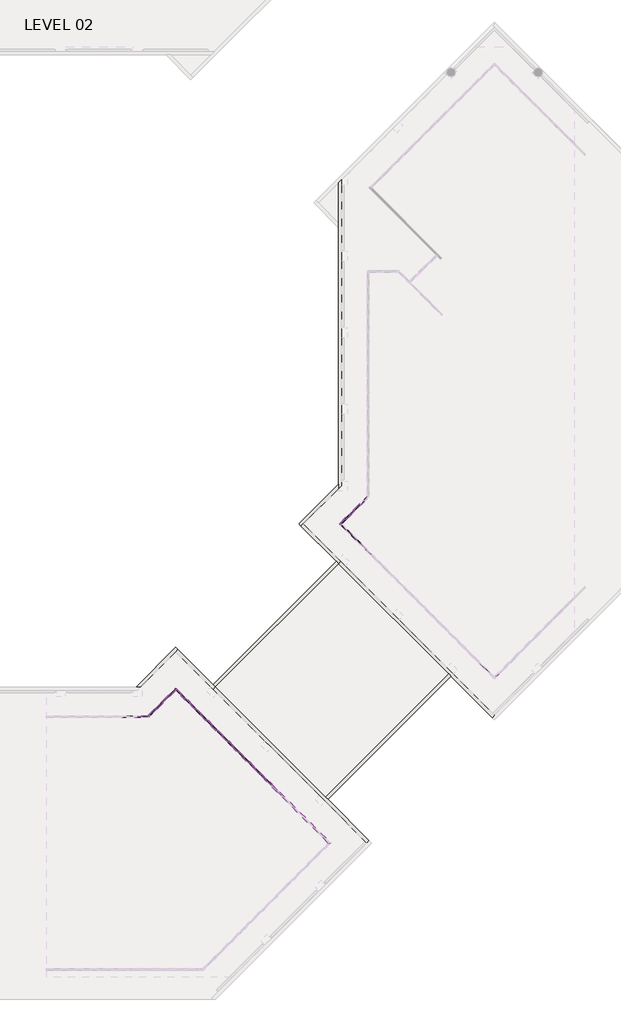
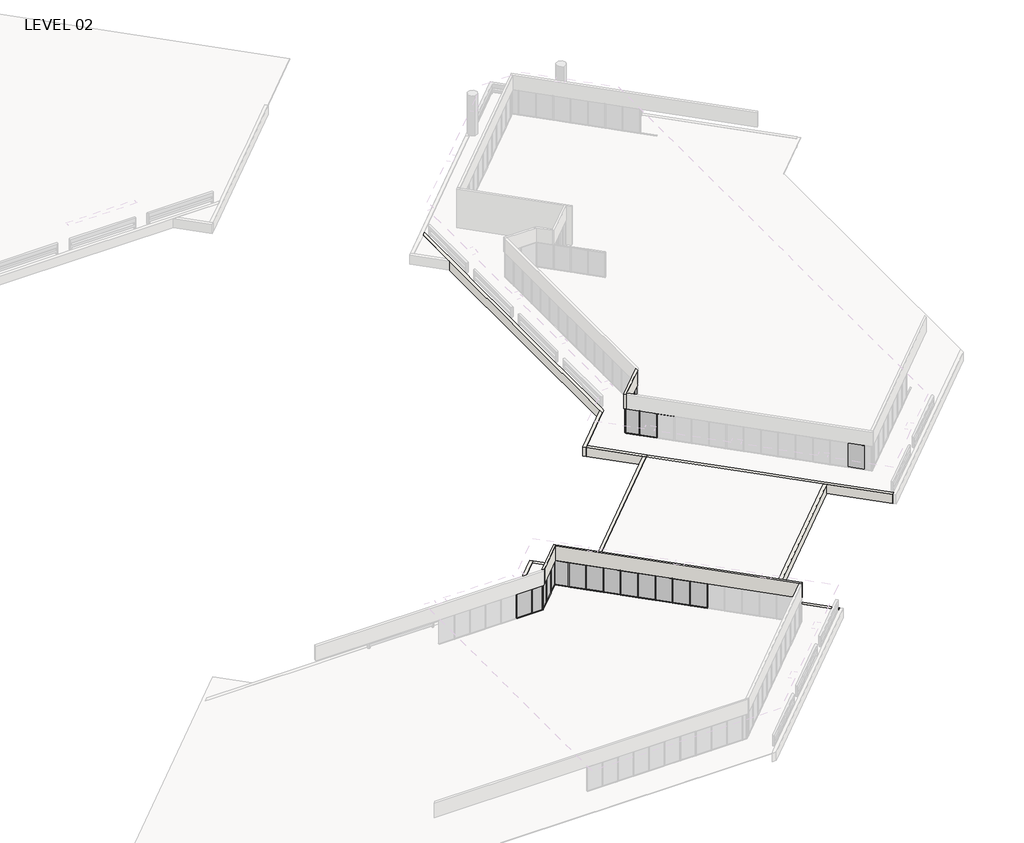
# One storey, part 9 of 19: 65 members, 21 plates, 12 walls.
"""IFC4 building model written with IfcOpenShell, lengths in millimetres."""

from ifc_helpers import new_model, si_unit, frame, origin, place, context, project, spatial, polyline, outline, extrude, faceted_brep, transform, mapped, element, save
from components import member_5247f267, member_ed5eb8ce, member_1b18ecbc, member_57f2eb73, member_e44af9ab, member_800970d4, member_79e7b9d8, member_76371e1d, member_71e516ba, plate_ce959b8d, plate_67294edd, plate_474de82a, plate_87d7c655, plate_43a54168, plate_e0bd23ee, plate_9188e7fd, plate_7efc74f4

model = new_model("IFC4")

# Units and contexts
model_context = context("Model", 3, world=origin())
ifc_project = project(units=[si_unit("LENGTHUNIT", "METRE", prefix="MILLI")], contexts=[model_context])

# Site, building, storey
site = spatial("IfcSite", under=ifc_project)
building = spatial("IfcBuilding", under=site)
storey = spatial("IfcBuildingStorey", under=building, Name="LEVEL 02", Elevation=4140.2)

# Members
placement = place(None, origin())
member_shape = member_5247f267(model_context)
element("IfcMember", 1, ObjectType="Rectangular Mullion : 2\" x 4.5\" rectangular", at=placement, inside=storey, context=model_context, shape_type="MappedRepresentation", body=[
    mapped(member_shape, transform((54569.0750355, 16323.0133392, 4140.2), x_axis=(0.0, 0.0, -1.0), y_axis=(0.707106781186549, 0.7071067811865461, 0.0), z_axis=(0.707106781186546, -0.7071067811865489, 0.0))),
])
element("IfcMember", 2, ObjectType="Rectangular Mullion : 2\" x 4.5\" rectangular", at=placement, inside=storey, context=model_context, shape_type="MappedRepresentation", body=[
    mapped(member_shape, transform((52414.1709117, 18477.917463, 4140.2), x_axis=(0.0, 0.0, -1.0), y_axis=(0.707106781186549, 0.7071067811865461, 0.0), z_axis=(0.707106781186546, -0.7071067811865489, 0.0))),
])
element("IfcMember", 3, ObjectType="Rectangular Mullion : 2\" x 4.5\" rectangular", at=placement, inside=storey, context=model_context, shape_type="MappedRepresentation", body=[
    mapped(member_shape, transform((50258.9094426, 20633.1789321, 4140.2), x_axis=(0.0, 0.0, -1.0), y_axis=(0.707106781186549, 0.7071067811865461, 0.0), z_axis=(0.7071067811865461, -0.707106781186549, 0.0))),
])
element("IfcMember", 4, ObjectType="Rectangular Mullion : 2\" x 4.5\" rectangular", at=placement, inside=storey, context=model_context, shape_type="MappedRepresentation", body=[
    mapped(member_shape, transform((48103.6479736, 22788.4404011, 4140.2), x_axis=(0.0, 0.0, -1.0), y_axis=(0.7071067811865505, 0.7071067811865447, 0.0), z_axis=(0.7071067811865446, -0.7071067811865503, 0.0))),
])
element("IfcMember", 5, ObjectType="Rectangular Mullion : 2\" x 4.5\" rectangular", at=placement, inside=storey, context=model_context, shape_type="MappedRepresentation", body=[
    mapped(member_shape, transform((47026.0172391, 23866.0711357, 4140.2), x_axis=(0.0, 0.0, -1.0), y_axis=(0.7071067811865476, 0.7071067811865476, 0.0), z_axis=(0.7071067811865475, -0.7071067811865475, 0.0))),
])
element("IfcMember", 6, ObjectType="Rectangular Mullion : 2\" x 4.5\" rectangular", at=placement, inside=storey, context=model_context, shape_type="MappedRepresentation", body=[
    mapped(member_shape, transform((51336.5401772, 19555.5481975, 4140.2), x_axis=(0.0, 0.0, -1.0), y_axis=(0.707106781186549, 0.7071067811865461, 0.0), z_axis=(0.707106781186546, -0.7071067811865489, 0.0))),
])
element("IfcMember", 7, ObjectType="Rectangular Mullion : 2\" x 4.5\" rectangular", at=placement, inside=storey, context=model_context, shape_type="MappedRepresentation", body=[
    mapped(member_shape, transform((49181.2787081, 21710.8096666, 4140.2), x_axis=(0.0, 0.0, -1.0), y_axis=(0.7071067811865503, 0.7071067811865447, 0.0), z_axis=(0.7071067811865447, -0.7071067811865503, 0.0))),
])
element("IfcMember", 8, ObjectType="Rectangular Mullion : 2\" x 4.5\" rectangular", at=placement, inside=storey, context=model_context, shape_type="MappedRepresentation", body=[
    mapped(member_shape, transform((44147.5963619, 24907.7847366, 4140.2), x_axis=(0.0, 0.0, -1.0), y_axis=(-0.7071067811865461, 0.7071067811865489, 0.0), z_axis=(0.7071067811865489, 0.7071067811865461, 0.0))),
])
element("IfcMember", 9, ObjectType="Rectangular Mullion : 2\" x 4.5\" rectangular", at=placement, inside=storey, context=model_context, shape_type="MappedRepresentation", body=[
    mapped(member_shape, transform((41230.55, 23089.2828721, 4140.2), x_axis=(0.0, 0.0, -1.0), y_axis=(0.0, 1.0, 0.0), z_axis=(1.0, 0.0, 0.0))),
])
element("IfcMember", 10, ObjectType="Rectangular Mullion : 2\" x 4.5\" rectangular", at=placement, inside=storey, context=model_context, shape_type="MappedRepresentation", body=[
    mapped(member_shape, transform((54604.99606, 16287.0923148, 6731.0), x_axis=(0.0, 0.0, 1.0), y_axis=(0.7071067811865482, 0.7071067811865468, 0.0), z_axis=(-0.7071067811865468, 0.7071067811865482, 0.0))),
])
element("IfcMember", 11, ObjectType="Rectangular Mullion : 2\" x 4.5\" rectangular", at=placement, inside=storey, context=model_context, shape_type="MappedRepresentation", body=[
    mapped(member_shape, transform((50294.8304671, 20597.2579076, 6731.0), x_axis=(0.0, 0.0, 1.0), y_axis=(0.707106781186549, 0.7071067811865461, 0.0), z_axis=(-0.707106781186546, 0.7071067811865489, 0.0))),
])
element("IfcMember", 12, ObjectType="Rectangular Mullion : 2\" x 4.5\" rectangular", at=placement, inside=storey, context=model_context, shape_type="MappedRepresentation", body=[
    mapped(member_shape, transform((48139.5689981, 22752.5193766, 6731.0), x_axis=(0.0, 0.0, 1.0), y_axis=(0.707106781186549, 0.7071067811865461, 0.0), z_axis=(-0.707106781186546, 0.7071067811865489, 0.0))),
])
element("IfcMember", 13, ObjectType="Rectangular Mullion : 2\" x 4.5\" rectangular", at=placement, inside=storey, context=model_context, shape_type="MappedRepresentation", body=[
    mapped(member_shape, transform((43105.8866519, 23866.0750266, 6731.0), x_axis=(0.0, 0.0, 1.0), y_axis=(-0.7071067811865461, 0.7071067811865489, 0.0), z_axis=(-0.7071067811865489, -0.7071067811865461, 0.0))),
])
element("IfcMember", 14, ObjectType="Rectangular Mullion : 2\" x 4.5\" rectangular", at=placement, inside=storey, context=model_context, shape_type="MappedRepresentation", body=[
    mapped(member_shape, transform((47061.9382635, 23830.1501112, 6731.0), x_axis=(0.0, 0.0, 1.0), y_axis=(0.7071067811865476, 0.7071067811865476, 0.0), z_axis=(-0.7071067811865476, 0.7071067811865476, 0.0))),
])
element("IfcMember", 15, ObjectType="Rectangular Mullion : 2\" x 4.5\" rectangular", at=placement, inside=storey, context=model_context, shape_type="MappedRepresentation", body=[
    mapped(member_shape, transform((45984.307529, 24907.7808457, 6731.0), x_axis=(0.0, 0.0, 1.0), y_axis=(0.7071067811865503, 0.7071067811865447, 0.0), z_axis=(-0.7071067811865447, 0.7071067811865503, 0.0))),
])
element("IfcMember", 16, ObjectType="Rectangular Mullion : 2\" x 4.5\" rectangular", at=placement, inside=storey, context=model_context, shape_type="MappedRepresentation", body=[
    mapped(member_shape, transform((53527.3653254, 17364.7230493, 6731.0), x_axis=(0.0, 0.0, 1.0), y_axis=(0.707106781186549, 0.7071067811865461, 0.0), z_axis=(-0.707106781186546, 0.7071067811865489, 0.0))),
])
element("IfcMember", 17, ObjectType="Rectangular Mullion : 2\" x 4.5\" rectangular", at=placement, inside=storey, context=model_context, shape_type="MappedRepresentation", body=[
    mapped(member_shape, transform((51372.4612017, 19519.6271731, 6731.0), x_axis=(0.0, 0.0, 1.0), y_axis=(0.707106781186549, 0.7071067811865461, 0.0), z_axis=(-0.707106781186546, 0.7071067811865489, 0.0))),
])
element("IfcMember", 18, ObjectType="Rectangular Mullion : 2\" x 4.5\" rectangular", at=placement, inside=storey, context=model_context, shape_type="MappedRepresentation", body=[
    mapped(member_shape, transform((49217.1997326, 21674.8886421, 6731.0), x_axis=(0.0, 0.0, 1.0), y_axis=(0.7071067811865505, 0.7071067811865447, 0.0), z_axis=(-0.7071067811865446, 0.7071067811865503, 0.0))),
])
member_2_shape = member_ed5eb8ce(model_context)
element("IfcMember", 19, ObjectType="Rectangular Mullion : 2\" x 4.5\" rectangular", at=placement, inside=storey, context=model_context, shape_type="MappedRepresentation", body=[
    mapped(member_2_shape, transform((42365.0155219, 23125.2038966, 6731.0), x_axis=(0.0, 0.0, 1.0), y_axis=(-0.7071067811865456, 0.7071067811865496, 0.0), z_axis=(-0.7071067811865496, -0.7071067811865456, 0.0))),
])
element("IfcMember", 20, ObjectType="Rectangular Mullion : 2\" x 4.5\" rectangular", at=placement, inside=storey, context=model_context, shape_type="MappedRepresentation", body=[
    mapped(member_2_shape, transform((41281.35, 23089.2828721, 6731.0), x_axis=(0.0, 0.0, 1.0), y_axis=(0.0, 1.0, 0.0), z_axis=(-1.0, 0.0, 0.0))),
])
element("IfcMember", 21, ObjectType="Rectangular Mullion : 2\" x 4.5\" rectangular", at=placement, inside=storey, context=model_context, shape_type="MappedRepresentation", body=[
    mapped(member_2_shape, transform((43069.9656274, 23830.1540021, 4140.2), x_axis=(0.0, 0.0, -1.0), y_axis=(-0.7071067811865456, 0.7071067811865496, 0.0), z_axis=(0.7071067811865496, 0.7071067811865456, 0.0))),
])
element("IfcMember", 22, ObjectType="Rectangular Mullion : 2\" x 4.5\" rectangular", at=placement, inside=storey, context=model_context, shape_type="MappedRepresentation", body=[
    mapped(member_2_shape, transform((42278.2944974, 23089.2828721, 4140.2), x_axis=(0.0, 0.0, -1.0), y_axis=(0.0, 1.0, 0.0), z_axis=(1.0, 0.0, 0.0))),
])
member_3_shape = member_1b18ecbc(model_context)
element("IfcMember", 23, ObjectType="Rectangular Mullion : 2\" x 4.5\" rectangular", at=placement, inside=storey, context=model_context, shape_type="MappedRepresentation", body=[
    mapped(member_3_shape, transform((45101.8710245, 25790.2173502, 6731.0), x_axis=(0.0, 0.0, 1.0), y_axis=(0.7071067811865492, 0.7071067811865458, 0.0), z_axis=(-0.7071067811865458, 0.7071067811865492, 0.0))),
])
element("IfcMember", 24, ObjectType="Rectangular Mullion : 2\" x 4.5\" rectangular", at=placement, inside=storey, context=model_context, shape_type="MappedRepresentation", body=[
    mapped(member_3_shape, transform((44183.5173864, 24943.7057611, 6731.0), x_axis=(0.0, 0.0, 1.0), y_axis=(-0.7071067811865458, 0.7071067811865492, 0.0), z_axis=(-0.7071067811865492, -0.7071067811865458, 0.0))),
])
element("IfcMember", 25, ObjectType="Rectangular Mullion : 2\" x 4.5\" rectangular", at=placement, inside=storey, context=model_context, shape_type="MappedRepresentation", body=[
    mapped(member_3_shape, transform((45030.0289755, 25790.2173502, 4140.2), x_axis=(0.0, 0.0, -1.0), y_axis=(-0.7071067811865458, 0.7071067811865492, 0.0), z_axis=(0.7071067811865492, 0.7071067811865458, 0.0))),
])
element("IfcMember", 26, ObjectType="Rectangular Mullion : 2\" x 4.5\" rectangular", at=placement, inside=storey, context=model_context, shape_type="MappedRepresentation", body=[
    mapped(member_3_shape, transform((45948.3865045, 24943.7018702, 4140.2), x_axis=(0.0, 0.0, -1.0), y_axis=(0.7071067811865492, 0.7071067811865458, 0.0), z_axis=(0.7071067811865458, -0.7071067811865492, 0.0))),
])
member_4_shape = member_57f2eb73(model_context)
element("IfcMember", 27, ObjectType="Rectangular Mullion : 2\" x 4.5\" rectangular", at=placement, inside=storey, context=model_context, shape_type="MappedRepresentation", body=[
    mapped(member_4_shape, transform((52450.0919362, 18441.9964385, 6731.0), x_axis=(0.0, 0.0, 1.0), y_axis=(0.7071067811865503, 0.7071067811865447, 0.0), z_axis=(-0.7071067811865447, 0.7071067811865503, 0.0))),
])
element("IfcMember", 28, ObjectType="Rectangular Mullion : 2\" x 4.5\" rectangular", at=placement, inside=storey, context=model_context, shape_type="MappedRepresentation", body=[
    mapped(member_4_shape, transform((53491.4443009, 17400.6440738, 4140.2), x_axis=(0.0, 0.0, -1.0), y_axis=(0.7071067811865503, 0.7071067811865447, 0.0), z_axis=(0.7071067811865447, -0.7071067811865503, 0.0))),
])
member_5_shape = member_e44af9ab(model_context)
element("IfcMember", 29, ObjectType="Rectangular Mullion : 2\" x 4.5\" rectangular", at=placement, inside=storey, context=model_context, shape_type="MappedRepresentation", body=[
    mapped(member_5_shape, transform((54587.0355477, 16305.052827, 4140.2), x_axis=(-0.7071067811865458, 0.7071067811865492, 0.0), y_axis=(0.7071067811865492, 0.7071067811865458, 0.0), z_axis=(0.0, 0.0, -1.0))),
])
element("IfcMember", 30, ObjectType="Rectangular Mullion : 2\" x 4.5\" rectangular", at=placement, inside=storey, context=model_context, shape_type="MappedRepresentation", body=[
    mapped(member_5_shape, transform((52432.1314239, 18459.9569508, 4140.2), x_axis=(-0.7071067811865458, 0.7071067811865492, 0.0), y_axis=(0.7071067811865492, 0.7071067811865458, 0.0), z_axis=(0.0, 0.0, -1.0))),
])
element("IfcMember", 31, ObjectType="Rectangular Mullion : 2\" x 4.5\" rectangular", at=placement, inside=storey, context=model_context, shape_type="MappedRepresentation", body=[
    mapped(member_5_shape, transform((50276.8699549, 20615.2184198, 4140.2), x_axis=(-0.7071067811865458, 0.7071067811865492, 0.0), y_axis=(0.7071067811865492, 0.7071067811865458, 0.0), z_axis=(0.0, 0.0, -1.0))),
])
element("IfcMember", 32, ObjectType="Rectangular Mullion : 2\" x 4.5\" rectangular", at=placement, inside=storey, context=model_context, shape_type="MappedRepresentation", body=[
    mapped(member_5_shape, transform((48121.6084858, 22770.4798889, 4140.2), x_axis=(-0.7071067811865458, 0.7071067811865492, 0.0), y_axis=(0.7071067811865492, 0.7071067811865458, 0.0), z_axis=(0.0, 0.0, -1.0))),
])
element("IfcMember", 33, ObjectType="Rectangular Mullion : 2\" x 4.5\" rectangular", at=placement, inside=storey, context=model_context, shape_type="MappedRepresentation", body=[
    mapped(member_5_shape, transform((43087.9261396, 23848.1145143, 4140.2), x_axis=(-0.7071067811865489, -0.7071067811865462, 0.0), y_axis=(-0.7071067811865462, 0.7071067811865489, 0.0), z_axis=(0.0, 0.0, -1.0))),
])
element("IfcMember", 34, ObjectType="Rectangular Mullion : 2\" x 4.5\" rectangular", at=placement, inside=storey, context=model_context, shape_type="MappedRepresentation", body=[
    mapped(member_5_shape, transform((47043.9777513, 23848.1106234, 4140.2), x_axis=(-0.7071067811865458, 0.7071067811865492, 0.0), y_axis=(0.7071067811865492, 0.7071067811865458, 0.0), z_axis=(0.0, 0.0, -1.0))),
])
element("IfcMember", 35, ObjectType="Rectangular Mullion : 2\" x 4.5\" rectangular", at=placement, inside=storey, context=model_context, shape_type="MappedRepresentation", body=[
    mapped(member_5_shape, transform((45966.3470168, 24925.7413579, 4140.2), x_axis=(-0.7071067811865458, 0.7071067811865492, 0.0), y_axis=(0.7071067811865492, 0.7071067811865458, 0.0), z_axis=(0.0, 0.0, -1.0))),
])
element("IfcMember", 36, ObjectType="Rectangular Mullion : 2\" x 4.5\" rectangular", at=placement, inside=storey, context=model_context, shape_type="MappedRepresentation", body=[
    mapped(member_5_shape, transform((53509.4048132, 17382.6835615, 4140.2), x_axis=(-0.7071067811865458, 0.7071067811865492, 0.0), y_axis=(0.7071067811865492, 0.7071067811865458, 0.0), z_axis=(0.0, 0.0, -1.0))),
])
element("IfcMember", 37, ObjectType="Rectangular Mullion : 2\" x 4.5\" rectangular", at=placement, inside=storey, context=model_context, shape_type="MappedRepresentation", body=[
    mapped(member_5_shape, transform((51354.5006894, 19537.5876853, 4140.2), x_axis=(-0.7071067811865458, 0.7071067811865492, 0.0), y_axis=(0.7071067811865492, 0.7071067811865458, 0.0), z_axis=(0.0, 0.0, -1.0))),
])
element("IfcMember", 38, ObjectType="Rectangular Mullion : 2\" x 4.5\" rectangular", at=placement, inside=storey, context=model_context, shape_type="MappedRepresentation", body=[
    mapped(member_5_shape, transform((49199.2392204, 21692.8491544, 4140.2), x_axis=(-0.7071067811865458, 0.7071067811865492, 0.0), y_axis=(0.7071067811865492, 0.7071067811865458, 0.0), z_axis=(0.0, 0.0, -1.0))),
])
element("IfcMember", 39, ObjectType="Rectangular Mullion : 2\" x 4.5\" rectangular", at=placement, inside=storey, context=model_context, shape_type="MappedRepresentation", body=[
    mapped(member_5_shape, transform((44165.5568742, 24925.7452489, 4140.2), x_axis=(-0.7071067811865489, -0.7071067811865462, 0.0), y_axis=(-0.7071067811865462, 0.7071067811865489, 0.0), z_axis=(0.0, 0.0, -1.0))),
])
element("IfcMember", 40, ObjectType="Rectangular Mullion : 2\" x 4.5\" rectangular", at=placement, inside=storey, context=model_context, shape_type="MappedRepresentation", body=[
    mapped(member_5_shape, transform((41255.95, 23089.2828721, 4140.2), x_axis=(-1.0, 0.0, 0.0), y_axis=(0.0, 1.0, 0.0), z_axis=(0.0, 0.0, -1.0))),
])
element("IfcMember", 41, ObjectType="Rectangular Mullion : 2\" x 4.5\" rectangular", at=placement, inside=storey, context=model_context, shape_type="MappedRepresentation", body=[
    mapped(member_5_shape, transform((39731.95, 23089.2828721, 4140.2), x_axis=(-1.0, 0.0, 0.0), y_axis=(0.0, 1.0, 0.0), z_axis=(0.0, 0.0, -1.0))),
])
member_6_shape = member_800970d4(model_context)
element("IfcMember", 42, ObjectType="Rectangular Mullion : 2\" x 4.5\" rectangular", at=placement, inside=storey, context=model_context, shape_type="MappedRepresentation", body=[
    mapped(member_6_shape, transform((45065.95, 25826.1383747, 4140.2), x_axis=(-0.7071067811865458, 0.7071067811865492, 0.0), y_axis=(0.7071067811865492, 0.7071067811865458, 0.0), z_axis=(0.0, 0.0, -1.0))),
])
element("IfcMember", 43, ObjectType="Rectangular Mullion : 2\" x 4.5\" rectangular", at=placement, inside=storey, context=model_context, shape_type="MappedRepresentation", body=[
    mapped(member_6_shape, transform((42329.0944974, 23089.2828721, 4140.2), x_axis=(-0.7071067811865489, -0.7071067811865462, 0.0), y_axis=(-0.7071067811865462, 0.7071067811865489, 0.0), z_axis=(0.0, 0.0, -1.0))),
])
element("IfcMember", 44, ObjectType="Rectangular Mullion : 2\" x 4.5\" rectangular", at=placement, inside=storey, context=model_context, shape_type="MappedRepresentation", body=[
    mapped(member_6_shape, transform((45065.95, 25826.1383747, 6731.0), x_axis=(0.7071067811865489, 0.7071067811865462, 0.0), y_axis=(-0.7071067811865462, 0.7071067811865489, 0.0), z_axis=(0.0, 0.0, 1.0))),
])
element("IfcMember", 45, ObjectType="Rectangular Mullion : 2\" x 4.5\" rectangular", at=placement, inside=storey, context=model_context, shape_type="MappedRepresentation", body=[
    mapped(member_6_shape, transform((42329.0944974, 23089.2828721, 6731.0), x_axis=(1.0, 0.0, 0.0), y_axis=(0.0, 1.0, 0.0), z_axis=(0.0, 0.0, 1.0))),
])
element("IfcMember", 46, ObjectType="Rectangular Mullion : 2\" x 4.5\" rectangular", at=placement, inside=storey, context=model_context, shape_type="MappedRepresentation", body=[
    mapped(member_shape, transform((63513.7674773, 40281.979325, 6731.0), x_axis=(0.0, 0.0, 1.0), y_axis=(0.7071067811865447, 0.7071067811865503, 0.0), z_axis=(-0.7071067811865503, 0.7071067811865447, 0.0))),
])
element("IfcMember", 47, ObjectType="Rectangular Mullion : 2\" x 4.5\" rectangular", at=placement, inside=storey, context=model_context, shape_type="MappedRepresentation", body=[
    mapped(member_shape, transform((62436.1367428, 41359.6100595, 6731.0), x_axis=(0.0, 0.0, 1.0), y_axis=(0.7071067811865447, 0.7071067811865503, 0.0), z_axis=(-0.7071067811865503, 0.7071067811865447, 0.0))),
])
element("IfcMember", 48, ObjectType="Rectangular Mullion : 2\" x 4.5\" rectangular", at=placement, inside=storey, context=model_context, shape_type="MappedRepresentation", body=[
    mapped(member_2_shape, transform((63513.7635864, 44273.9519611, 4140.2), x_axis=(0.0, 0.0, -1.0), y_axis=(0.7071067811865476, -0.7071067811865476, 0.0), z_axis=(-0.7071067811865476, -0.7071067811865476, 0.0))),
])
element("IfcMember", 49, ObjectType="Rectangular Mullion : 2\" x 4.5\" rectangular", at=placement, inside=storey, context=model_context, shape_type="MappedRepresentation", body=[
    mapped(member_shape, transform((63477.8464529, 40317.9003495, 4140.2), x_axis=(0.0, 0.0, -1.0), y_axis=(0.7071067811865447, 0.7071067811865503, 0.0), z_axis=(0.7071067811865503, -0.7071067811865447, 0.0))),
])
element("IfcMember", 50, ObjectType="Rectangular Mullion : 2\" x 4.5\" rectangular", at=placement, inside=storey, context=model_context, shape_type="MappedRepresentation", body=[
    mapped(member_5_shape, transform((63495.8030742, 44255.9914489, 4140.2), x_axis=(0.7071067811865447, 0.7071067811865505, 0.0), y_axis=(0.7071067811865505, -0.7071067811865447, 0.0), z_axis=(0.0, 0.0, -1.0))),
])
element("IfcMember", 51, ObjectType="Rectangular Mullion : 2\" x 4.5\" rectangular", at=placement, inside=storey, context=model_context, shape_type="MappedRepresentation", body=[
    mapped(member_5_shape, transform((63495.8069651, 40299.9398372, 4140.2), x_axis=(-0.7071067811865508, 0.7071067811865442, 0.0), y_axis=(0.7071067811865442, 0.7071067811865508, 0.0), z_axis=(0.0, 0.0, -1.0))),
])
element("IfcMember", 52, ObjectType="Rectangular Mullion : 2\" x 4.5\" rectangular", at=placement, inside=storey, context=model_context, shape_type="MappedRepresentation", body=[
    mapped(member_5_shape, transform((62418.1762306, 41377.5705717, 4140.2), x_axis=(-0.7071067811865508, 0.7071067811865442, 0.0), y_axis=(0.7071067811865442, 0.7071067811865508, 0.0), z_axis=(0.0, 0.0, -1.0))),
])
element("IfcMember", 53, ObjectType="Rectangular Mullion : 2\" x 4.5\" rectangular", at=placement, inside=storey, context=model_context, shape_type="MappedRepresentation", body=[
    mapped(member_5_shape, transform((62418.1723396, 43178.3607144, 4140.2), x_axis=(0.7071067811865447, 0.7071067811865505, 0.0), y_axis=(0.7071067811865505, -0.7071067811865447, 0.0), z_axis=(0.0, 0.0, -1.0))),
])
element("IfcMember", 54, ObjectType="Rectangular Mullion : 2\" x 4.5\" rectangular", at=placement, inside=storey, context=model_context, shape_type="MappedRepresentation", body=[
    mapped(member_6_shape, transform((61517.7792138, 42277.9675885, 4140.2), x_axis=(-0.7071067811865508, 0.7071067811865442, 0.0), y_axis=(0.7071067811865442, 0.7071067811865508, 0.0), z_axis=(0.0, 0.0, -1.0))),
])
element("IfcMember", 55, ObjectType="Rectangular Mullion : 2\" x 4.5\" rectangular", at=placement, inside=storey, context=model_context, shape_type="MappedRepresentation", body=[
    mapped(member_6_shape, transform((61517.7792138, 42277.9675885, 6731.0), x_axis=(-0.7071067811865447, -0.7071067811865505, 0.0), y_axis=(0.7071067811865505, -0.7071067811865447, 0.0), z_axis=(0.0, 0.0, 1.0))),
])
member_7_shape = member_79e7b9d8(model_context)
element("IfcMember", 56, ObjectType="Rectangular Mullion : 2\" x 4.5\" rectangular", at=placement, inside=storey, context=model_context, shape_type="MappedRepresentation", body=[
    mapped(member_7_shape, transform((76885.7807409, 26981.8081104, 6731.0), x_axis=(0.0, 0.0, 1.0), y_axis=(-0.7071067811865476, 0.7071067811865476, 0.0), z_axis=(-0.7071067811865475, -0.7071067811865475, 0.0))),
])
element("IfcMember", 57, ObjectType="Rectangular Mullion : 2\" x 4.5\" rectangular", at=placement, inside=storey, context=model_context, shape_type="MappedRepresentation", body=[
    mapped(member_3_shape, transform((61553.7002383, 42242.046564, 6731.0), x_axis=(0.0, 0.0, 1.0), y_axis=(0.7071067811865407, 0.7071067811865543, 0.0), z_axis=(-0.7071067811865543, 0.7071067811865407, 0.0))),
])
element("IfcMember", 58, ObjectType="Rectangular Mullion : 2\" x 4.5\" rectangular", at=placement, inside=storey, context=model_context, shape_type="MappedRepresentation", body=[
    mapped(member_3_shape, transform((62400.2118274, 43160.4002021, 6731.0), x_axis=(0.0, 0.0, 1.0), y_axis=(0.7071067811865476, -0.7071067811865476, 0.0), z_axis=(0.7071067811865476, 0.7071067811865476, 0.0))),
])
element("IfcMember", 59, ObjectType="Rectangular Mullion : 2\" x 4.5\" rectangular", at=placement, inside=storey, context=model_context, shape_type="MappedRepresentation", body=[
    mapped(member_3_shape, transform((61553.7002383, 42313.888613, 4140.2), x_axis=(0.0, 0.0, -1.0), y_axis=(0.7071067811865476, -0.7071067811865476, 0.0), z_axis=(-0.7071067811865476, -0.7071067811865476, 0.0))),
])
element("IfcMember", 60, ObjectType="Rectangular Mullion : 2\" x 4.5\" rectangular", at=placement, inside=storey, context=model_context, shape_type="MappedRepresentation", body=[
    mapped(member_3_shape, transform((62400.2157183, 41395.531084, 4140.2), x_axis=(0.0, 0.0, -1.0), y_axis=(0.7071067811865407, 0.7071067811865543, 0.0), z_axis=(0.7071067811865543, -0.7071067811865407, 0.0))),
])
member_8_shape = member_76371e1d(model_context)
element("IfcMember", 61, ObjectType="Rectangular Mullion : 2\" x 4.5\" rectangular", at=placement, inside=storey, context=model_context, shape_type="MappedRepresentation", body=[
    mapped(member_8_shape, transform((63477.8425619, 44238.0309367, 6731.0), x_axis=(0.0, 0.0, 1.0), y_axis=(0.7071067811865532, -0.7071067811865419, 0.0), z_axis=(0.7071067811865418, 0.7071067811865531, 0.0))),
])
member_9_shape = member_71e516ba(model_context)
element("IfcMember", 62, ObjectType="Rectangular Mullion : 2\" x 4.5\" rectangular", at=placement, inside=storey, context=model_context, shape_type="MappedRepresentation", body=[
    mapped(member_9_shape, transform((62436.1328519, 43196.3212266, 4140.2), x_axis=(0.0, 0.0, -1.0), y_axis=(0.7071067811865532, -0.7071067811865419, 0.0), z_axis=(-0.7071067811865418, -0.7071067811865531, 0.0))),
])
element("IfcMember", 63, ObjectType="Rectangular Mullion : 2\" x 4.5\" rectangular", at=placement, inside=storey, context=model_context, shape_type="MappedRepresentation", body=[
    mapped(member_9_shape, transform((62868.2464529, 43628.4348276, 6731.0), x_axis=(0.0, 0.0, 1.0), y_axis=(0.707106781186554, -0.707106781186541, 0.0), z_axis=(0.707106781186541, 0.707106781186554, 0.0))),
])
element("IfcMember", 64, ObjectType="Rectangular Mullion : 2\" x 4.5\" rectangular", at=placement, inside=storey, context=model_context, shape_type="MappedRepresentation", body=[
    mapped(member_8_shape, transform((62904.1674773, 43664.3558521, 4140.2), x_axis=(0.0, 0.0, -1.0), y_axis=(0.7071067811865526, -0.7071067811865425, 0.0), z_axis=(-0.7071067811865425, -0.7071067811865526, 0.0))),
])
element("IfcMember", 65, ObjectType="Rectangular Mullion : 2\" x 4.5\" rectangular", at=placement, inside=storey, context=model_context, shape_type="MappedRepresentation", body=[
    mapped(member_5_shape, transform((62886.2069651, 43646.3953398, 4140.2), x_axis=(0.7071067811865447, 0.7071067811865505, 0.0), y_axis=(0.7071067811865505, -0.7071067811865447, 0.0), z_axis=(0.0, 0.0, -1.0))),
])

# Plates
plate_shape = plate_ce959b8d(model_context)
element("IfcPlate", 66, ObjectType="System Panel : 1/4\" Glass", at=placement, inside=storey, context=model_context, shape_type="MappedRepresentation", body=[
    mapped(plate_shape, transform((41779.8222487, 23089.2828721, 4191.0), x_axis=(-1.0, 0.0, 0.0), y_axis=(0.0, -1.0, 0.0), z_axis=(0.0, 0.0, 1.0))),
])
plate_2_shape = plate_67294edd(model_context)
element("IfcPlate", 67, ObjectType="System Panel : 1/4\" Glass", at=placement, inside=storey, context=model_context, shape_type="MappedRepresentation", body=[
    mapped(plate_2_shape, transform((54048.2201805, 16843.8681943, 4191.0), x_axis=(-0.7071067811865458, 0.7071067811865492, 0.0), y_axis=(-0.7071067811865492, -0.7071067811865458, 0.0), z_axis=(0.0, 0.0, 1.0))),
])
element("IfcPlate", 68, ObjectType="System Panel : 1/4\" Glass", at=placement, inside=storey, context=model_context, shape_type="MappedRepresentation", body=[
    mapped(plate_2_shape, transform((51893.3160567, 18998.772318, 4191.0), x_axis=(-0.7071067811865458, 0.7071067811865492, 0.0), y_axis=(-0.7071067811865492, -0.7071067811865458, 0.0), z_axis=(0.0, 0.0, 1.0))),
])
element("IfcPlate", 69, ObjectType="System Panel : 1/4\" Glass", at=placement, inside=storey, context=model_context, shape_type="MappedRepresentation", body=[
    mapped(plate_2_shape, transform((49738.0545876, 21154.0337871, 4191.0), x_axis=(-0.7071067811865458, 0.7071067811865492, 0.0), y_axis=(-0.7071067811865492, -0.7071067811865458, 0.0), z_axis=(0.0, 0.0, 1.0))),
])
element("IfcPlate", 70, ObjectType="System Panel : 1/4\" Glass", at=placement, inside=storey, context=model_context, shape_type="MappedRepresentation", body=[
    mapped(plate_2_shape, transform((47582.7931186, 23309.2952562, 4191.0), x_axis=(-0.7071067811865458, 0.7071067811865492, 0.0), y_axis=(-0.7071067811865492, -0.7071067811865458, 0.0), z_axis=(0.0, 0.0, 1.0))),
])
element("IfcPlate", 71, ObjectType="System Panel : 1/4\" Glass", at=placement, inside=storey, context=model_context, shape_type="MappedRepresentation", body=[
    mapped(plate_2_shape, transform((46505.162384, 24386.9259907, 4191.0), x_axis=(-0.7071067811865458, 0.7071067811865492, 0.0), y_axis=(-0.7071067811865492, -0.7071067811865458, 0.0), z_axis=(0.0, 0.0, 1.0))),
])
element("IfcPlate", 72, ObjectType="System Panel : 1/4\" Glass", at=placement, inside=storey, context=model_context, shape_type="MappedRepresentation", body=[
    mapped(plate_2_shape, transform((50815.6853222, 20076.4030526, 4191.0), x_axis=(-0.7071067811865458, 0.7071067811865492, 0.0), y_axis=(-0.7071067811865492, -0.7071067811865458, 0.0), z_axis=(0.0, 0.0, 1.0))),
])
element("IfcPlate", 73, ObjectType="System Panel : 1/4\" Glass", at=placement, inside=storey, context=model_context, shape_type="MappedRepresentation", body=[
    mapped(plate_2_shape, transform((48660.4238531, 22231.6645216, 4191.0), x_axis=(-0.7071067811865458, 0.7071067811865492, 0.0), y_axis=(-0.7071067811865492, -0.7071067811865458, 0.0), z_axis=(0.0, 0.0, 1.0))),
])
element("IfcPlate", 74, ObjectType="System Panel : 1/4\" Glass", at=placement, inside=storey, context=model_context, shape_type="MappedRepresentation", body=[
    mapped(plate_2_shape, transform((43626.7415069, 24386.9298816, 4191.0), x_axis=(-0.7071067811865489, -0.7071067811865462, 0.0), y_axis=(0.7071067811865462, -0.7071067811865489, 0.0), z_axis=(0.0, 0.0, 1.0))),
])
element("IfcPlate", 75, ObjectType="System Panel : 1/4\" Glass", at=placement, inside=storey, context=model_context, shape_type="MappedRepresentation", body=[
    mapped(plate_2_shape, transform((40493.95, 23089.2828721, 4191.0), x_axis=(-1.0, 0.0, 0.0), y_axis=(0.0, -1.0, 0.0), z_axis=(0.0, 0.0, 1.0))),
])
plate_3_shape = plate_474de82a(model_context)
element("IfcPlate", 76, ObjectType="System Panel : 1/4\" Glass", at=placement, inside=storey, context=model_context, shape_type="MappedRepresentation", body=[
    mapped(plate_3_shape, transform((45525.1287645, 25366.9596102, 4191.0), x_axis=(-0.7071067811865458, 0.7071067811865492, 0.0), y_axis=(-0.7071067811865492, -0.7071067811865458, 0.0), z_axis=(0.0, 0.0, 1.0))),
])
plate_4_shape = plate_87d7c655(model_context)
element("IfcPlate", 77, ObjectType="System Panel : 1/4\" Glass", at=placement, inside=storey, context=model_context, shape_type="MappedRepresentation", body=[
    mapped(plate_4_shape, transform((52970.7681186, 17921.3202562, 4191.0), x_axis=(-0.7071067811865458, 0.7071067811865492, 0.0), y_axis=(-0.7071067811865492, -0.7071067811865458, 0.0), z_axis=(0.0, 0.0, 1.0))),
])
plate_5_shape = plate_43a54168(model_context)
element("IfcPlate", 78, ObjectType="System Panel : 1/4\" Glass", at=placement, inside=storey, context=model_context, shape_type="MappedRepresentation", body=[
    mapped(plate_5_shape, transform((42717.4905746, 23477.6789494, 4191.0), x_axis=(-0.7071067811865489, -0.7071067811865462, 0.0), y_axis=(0.7071067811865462, -0.7071067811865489, 0.0), z_axis=(0.0, 0.0, 1.0))),
])
plate_6_shape = plate_e0bd23ee(model_context)
element("IfcPlate", 79, ObjectType="System Panel : 1/4\" Glass", at=placement, inside=storey, context=model_context, shape_type="MappedRepresentation", body=[
    mapped(plate_6_shape, transform((44606.773181, 25366.9615557, 4191.0), x_axis=(-0.7071067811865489, -0.7071067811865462, 0.0), y_axis=(0.7071067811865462, -0.7071067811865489, 0.0), z_axis=(0.0, 0.0, 1.0))),
])
element("IfcPlate", 80, ObjectType="System Panel : 1/4\" Glass", at=placement, inside=storey, context=model_context, shape_type="MappedRepresentation", body=[
    mapped(plate_2_shape, transform((62956.9915978, 40838.7552045, 4191.0), x_axis=(-0.7071067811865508, 0.7071067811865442, 0.0), y_axis=(-0.7071067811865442, -0.7071067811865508, 0.0), z_axis=(0.0, 0.0, 1.0))),
])
element("IfcPlate", 81, ObjectType="System Panel : 1/4\" Glass", at=placement, inside=storey, context=model_context, shape_type="MappedRepresentation", body=[
    mapped(plate_2_shape, transform((75888.2030669, 27907.5437354, 4191.0), x_axis=(-0.7071067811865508, 0.7071067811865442, 0.0), y_axis=(-0.7071067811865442, -0.7071067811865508, 0.0), z_axis=(0.0, 0.0, 1.0))),
])
element("IfcPlate", 82, ObjectType="System Panel : 1/4\" Glass", at=placement, inside=storey, context=model_context, shape_type="MappedRepresentation", body=[
    mapped(plate_5_shape, transform((63866.2386392, 44626.4270139, 4191.0), x_axis=(0.7071067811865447, 0.7071067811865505, 0.0), y_axis=(-0.7071067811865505, 0.7071067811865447, 0.0), z_axis=(0.0, 0.0, 1.0))),
])
element("IfcPlate", 83, ObjectType="System Panel : 1/4\" Glass", at=placement, inside=storey, context=model_context, shape_type="MappedRepresentation", body=[
    mapped(plate_6_shape, transform((61976.9560328, 42737.1444076, 4191.0), x_axis=(0.7071067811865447, 0.7071067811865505, 0.0), y_axis=(-0.7071067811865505, 0.7071067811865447, 0.0), z_axis=(0.0, 0.0, 1.0))),
])
element("IfcPlate", 84, ObjectType="System Panel : 1/4\" Glass", at=placement, inside=storey, context=model_context, shape_type="MappedRepresentation", body=[
    mapped(plate_3_shape, transform((61976.9579783, 41818.788824, 4191.0), x_axis=(-0.7071067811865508, 0.7071067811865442, 0.0), y_axis=(-0.7071067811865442, -0.7071067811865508, 0.0), z_axis=(0.0, 0.0, 1.0))),
])
plate_7_shape = plate_9188e7fd(model_context)
element("IfcPlate", 85, ObjectType="System Panel : 1/4\" Glass", at=placement, inside=storey, context=model_context, shape_type="MappedRepresentation", body=[
    mapped(plate_7_shape, transform((62652.1896524, 43412.3780271, 4191.0), x_axis=(0.7071067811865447, 0.7071067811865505, 0.0), y_axis=(-0.7071067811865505, 0.7071067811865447, 0.0), z_axis=(0.0, 0.0, 1.0))),
])
plate_8_shape = plate_7efc74f4(model_context)
element("IfcPlate", 86, ObjectType="System Panel : 1/4\" Glass", at=placement, inside=storey, context=model_context, shape_type="MappedRepresentation", body=[
    mapped(plate_8_shape, transform((63191.0050196, 43951.1933944, 4191.0), x_axis=(0.7071067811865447, 0.7071067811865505, 0.0), y_axis=(-0.7071067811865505, 0.7071067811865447, 0.0), z_axis=(0.0, 0.0, 1.0))),
])

# Walls
element("IfcWall", 87, ObjectType="01-CONCRETE-12", at=placement, inside=storey, context=model_context, shape_type="Brep", body=[
    faceted_brep([(41539.707951, 26035.6828721, 3225.8), (45065.95, 29561.9249211, 3225.8), (45281.4761469, 29777.451068, 3225.8), (45281.4761469, 29777.451068, 4140.2), (45065.95, 29561.9249211, 4140.2), (41539.707951, 26035.6828721, 4140.2), (41108.6556572, 26035.6828721, 3225.8), (41108.6556572, 26035.6828721, 4140.2), (45065.95, 29992.9772149, 4140.2), (45065.95, 29992.9772149, 3225.8)], [[[0, 1, 2, 3, 4, 5]], [[6, 7, 8, 9]], [[2, 1, 0, 6, 9]], [[5, 4, 3, 8, 7]], [[0, 5, 7, 6]], [[3, 2, 9, 8]]]),
])
element("IfcWall", 88, ObjectType="01-CONCRETE-12", at=placement, inside=storey, context=model_context, shape_type="Brep", body=[
    faceted_brep([(45065.95, 29561.9249211, 3225.8), (48607.0710245, 26020.8038966, 3225.8), (48804.107951, 25823.7669701, 3225.8), (48804.107951, 25823.7669701, 4140.2), (48607.0710245, 26020.8038966, 4140.2), (45065.95, 29561.9249211, 4140.2), (45281.4761469, 29777.451068, 3225.8), (45281.4761469, 29777.451068, 4140.2), (48804.107951, 26254.8192639, 4140.2), (49019.6340979, 26039.293117, 4140.2), (49019.6340979, 26039.293117, 3225.8), (48804.107951, 26254.8192639, 3225.8)], [[[0, 1, 2, 3, 4, 5]], [[6, 7, 8, 9, 10, 11]], [[2, 1, 0, 6, 11, 10]], [[5, 4, 3, 9, 8, 7]], [[0, 5, 7, 6]], [[3, 2, 10, 9]]]),
])
element("IfcWall", 89, ObjectType="01-CONCRETE-12", at=placement, inside=storey, context=model_context, shape_type="Brep", body=[
    faceted_brep([(61308.2347164, 76284.2096375, 3225.8), (61308.2347164, 72241.5082587, 3225.8), (61308.2347164, 71810.4559648, 3225.8), (61308.2347164, 46235.2619313, 3225.8), (61308.2347164, 45804.2096375, 3225.8), (61308.2347164, 45804.2096375, 4140.2), (61308.2347164, 46235.2619313, 4140.2), (61308.2347164, 71810.4559648, 4140.2), (61308.2347164, 72241.5082587, 4140.2), (61308.2347164, 76284.2096375, 4140.2), (61613.0347164, 76589.0096375, 3225.8), (61613.0347164, 76589.0096375, 4140.2), (61613.0347164, 76094.8311968, 4140.2), (61613.0347164, 69379.0198823, 4140.2), (61613.0347164, 68516.9152947, 4140.2), (61613.0347164, 61759.0198823, 4140.2), (61613.0347164, 60896.9152947, 4140.2), (61613.0347164, 54139.0198823, 4140.2), (61613.0347164, 53276.9152947, 4140.2), (61613.0347164, 46476.9357844, 4140.2), (61613.0347164, 46109.0096375, 4140.2), (61613.0347164, 46109.0096375, 3225.8), (61613.0347164, 46476.9357844, 3225.8), (61613.0347164, 53276.9152947, 3225.8), (61613.0347164, 54139.0198823, 3225.8), (61613.0347164, 60896.9152947, 3225.8), (61613.0347164, 61759.0198823, 3225.8), (61613.0347164, 68516.9152947, 3225.8), (61613.0347164, 69379.0198823, 3225.8), (61613.0347164, 76094.8311968, 3225.8), (61352.8716429, 45848.846564, 3225.8), (61352.8716429, 45848.846564, 4140.2)], [[[0, 1, 2, 3, 4, 5, 6, 7, 8, 9]], [[10, 11, 12, 13, 14, 15, 16, 17, 18, 19, 20, 21, 22, 23, 24, 25, 26, 27, 28, 29]], [[4, 3, 2, 1, 0, 10, 29, 28, 27, 26, 25, 24, 23, 22, 21, 30]], [[9, 8, 7, 6, 5, 31, 20, 19, 18, 17, 16, 15, 14, 13, 12, 11]], [[5, 4, 30, 21, 20, 31]], [[0, 9, 11, 10]]]),
])
element("IfcWall", 90, ObjectType="01-CONCRETE-12", at=placement, inside=storey, context=model_context, shape_type="Brep", body=[
    faceted_brep([(61308.2347164, 46235.2619313, 3225.8), (57350.9403736, 42277.9675885, 3225.8), (57350.9403736, 42277.9675885, 4140.2), (61308.2347164, 46235.2619313, 4140.2), (61308.2347164, 45804.2096375, 3225.8), (61308.2347164, 45804.2096375, 4140.2), (57781.9926674, 42277.9675885, 4140.2), (57566.4665205, 42062.4414416, 4140.2), (57566.4665205, 42062.4414416, 3225.8), (57781.9926674, 42277.9675885, 3225.8)], [[[0, 1, 2, 3]], [[4, 5, 6, 7, 8, 9]], [[1, 0, 4, 9, 8]], [[3, 2, 7, 6, 5]], [[0, 3, 5, 4]], [[2, 1, 8, 7]]]),
])
element("IfcWall", 91, ObjectType="01-CONCRETE-12", at=placement, inside=storey, context=model_context, shape_type="Brep", body=[
    faceted_brep([(57566.4665205, 42062.4414416, 3225.8), (61089.0983247, 38539.8096375, 3225.8), (61304.6244716, 38324.2834906, 3225.8), (61304.6244716, 38324.2834906, 4140.2), (61089.0983247, 38539.8096375, 4140.2), (57566.4665205, 42062.4414416, 4140.2), (57781.9926674, 42277.9675885, 3225.8), (57781.9926674, 42277.9675885, 4140.2), (61323.1136919, 38736.846564, 4140.2), (61520.1506185, 38539.8096375, 4140.2), (61520.1506185, 38539.8096375, 3225.8), (61323.1136919, 38736.846564, 3225.8)], [[[0, 1, 2, 3, 4, 5]], [[6, 7, 8, 9, 10, 11]], [[2, 1, 0, 6, 11, 10]], [[5, 4, 3, 9, 8, 7]], [[0, 5, 7, 6]], [[3, 2, 10, 9]]]),
])
element("IfcWall", 92, ObjectType="01-CONCRETE-12", at=placement, inside=storey, context=model_context, shape_type="SweptSolid", body=[
    extrude(outline(polyline([(60011.1102448, 15047.8169701), (72296.1006185, 27332.8073437), (72511.6267654, 27117.2811968), (60226.6363917, 14832.2908231), (60011.1102448, 15047.8169701)])), frame((0.0, 0.0, 3225.8), z_axis=(0.0, 0.0, 1.0), x_axis=(1.0, 0.0, 0.0)), (0.0, 0.0, 1.0), 914.4),
])
element("IfcWall", 93, ObjectType="01-CONCRETE-12", at=placement, inside=storey, context=model_context, shape_type="SweptSolid", body=[
    extrude(outline(polyline([(48804.107951, 26254.8192639), (61089.0983247, 38539.8096375), (61304.6244716, 38324.2834906), (49019.6340979, 26039.293117), (48804.107951, 26254.8192639)])), frame((0.0, 0.0, 3225.8), z_axis=(0.0, 0.0, 1.0), x_axis=(1.0, 0.0, 0.0)), (0.0, 0.0, 1.0), 914.4),
])
element("IfcWall", 94, ObjectType="01-CONCRETE-12", at=placement, inside=storey, context=model_context, shape_type="Brep", body=[
    faceted_brep([(48804.107951, 25823.7669701, 3225.8), (49216.6710245, 25411.2038966, 3225.8), (53995.0460245, 20632.8288966, 3225.8), (54604.6460245, 20023.2288966, 3225.8), (59383.0210245, 15244.8538966, 3225.8), (59992.6210245, 14635.2538966, 3225.8), (64133.817049, 10494.0578721, 3225.8), (64133.817049, 10494.0578721, 4140.2), (59992.6210245, 14635.2538966, 4140.2), (59383.0210245, 15244.8538966, 4140.2), (54604.6460245, 20023.2288966, 4140.2), (53995.0460245, 20632.8288966, 4140.2), (49216.6710245, 25411.2038966, 4140.2), (48804.107951, 25823.7669701, 4140.2), (49019.6340979, 26039.293117, 3225.8), (49019.6340979, 26039.293117, 4140.2), (60011.1102448, 15047.8169701, 4140.2), (60226.6363917, 14832.2908231, 4140.2), (64349.3431959, 10709.584019, 4140.2), (64349.3431959, 10709.584019, 3225.8), (60226.6363917, 14832.2908231, 3225.8), (60011.1102448, 15047.8169701, 3225.8)], [[[0, 1, 2, 3, 4, 5, 6, 7, 8, 9, 10, 11, 12, 13]], [[14, 15, 16, 17, 18, 19, 20, 21]], [[6, 5, 4, 3, 2, 1, 0, 14, 21, 20, 19]], [[13, 12, 11, 10, 9, 8, 7, 18, 17, 16, 15]], [[7, 6, 19, 18]], [[0, 13, 15, 14]]]),
])
element("IfcWall", 95, ObjectType="01-CONCRETE-12", at=placement, inside=storey, context=model_context, shape_type="Brep", body=[
    faceted_brep([(61304.6244716, 38324.2834906, 3225.8), (72296.1006185, 27332.8073437, 3225.8), (72511.6267654, 27117.2811968, 3225.8), (76634.3335695, 22994.5743926, 3225.8), (76634.3335695, 22994.5743926, 4140.2), (72511.6267654, 27117.2811968, 4140.2), (72296.1006185, 27332.8073437, 4140.2), (61304.6244716, 38324.2834906, 4140.2), (61520.1506185, 38539.8096375, 3225.8), (61520.1506185, 38539.8096375, 4140.2), (61932.7136919, 38127.246564, 4140.2), (66711.0886919, 33348.871564, 4140.2), (67320.6886919, 32739.271564, 4140.2), (72099.0636919, 27960.896564, 4140.2), (72708.6636919, 27351.296564, 4140.2), (76849.8597164, 23210.1005396, 4140.2), (76849.8597164, 23210.1005396, 3225.8), (72708.6636919, 27351.296564, 3225.8), (72099.0636919, 27960.896564, 3225.8), (67320.6886919, 32739.271564, 3225.8), (66711.0886919, 33348.871564, 3225.8), (61932.7136919, 38127.246564, 3225.8)], [[[0, 1, 2, 3, 4, 5, 6, 7]], [[8, 9, 10, 11, 12, 13, 14, 15, 16, 17, 18, 19, 20, 21]], [[3, 2, 1, 0, 8, 21, 20, 19, 18, 17, 16]], [[7, 6, 5, 4, 15, 14, 13, 12, 11, 10, 9]], [[4, 3, 16, 15]], [[0, 7, 9, 8]]]),
])
element("IfcWall", 96, ObjectType="8\" Existing Wall", at=placement, inside=storey, context=model_context, shape_type="Brep", body=[
    faceted_brep([(42574.3785953, 23190.8828721, 6731.0), (45065.95, 25682.4542768, 6731.0), (45209.6340979, 25826.1383747, 6731.0), (45209.6340979, 25826.1383747, 8229.6), (45065.95, 25682.4542768, 8229.6), (42574.3785953, 23190.8828721, 8229.6), (42287.0103995, 23190.8828721, 6731.0), (42287.0103995, 23190.8828721, 8229.6), (45065.95, 25969.8224727, 8229.6), (45065.95, 25969.8224727, 6731.0)], [[[0, 1, 2, 3, 4, 5]], [[6, 7, 8, 9]], [[2, 1, 0, 6, 9]], [[5, 4, 3, 8, 7]], [[0, 5, 7, 6]], [[3, 2, 9, 8]]]),
])
element("IfcWall", 97, ObjectType="8\" Existing Wall", at=placement, inside=storey, context=model_context, shape_type="Brep", body=[
    faceted_brep([(45065.95, 25682.4542768, 6731.0), (60254.3464047, 10494.0578721, 6731.0), (60398.0305026, 10350.3737742, 6731.0), (60398.0305026, 10350.3737742, 8229.6), (60254.3464047, 10494.0578721, 8229.6), (45065.95, 25682.4542768, 8229.6), (45209.6340979, 25826.1383747, 6731.0), (45209.6340979, 25826.1383747, 8229.6), (60541.7146005, 10494.0578721, 8229.6), (60541.7146005, 10494.0578721, 6731.0)], [[[0, 1, 2, 3, 4, 5]], [[6, 7, 8, 9]], [[2, 1, 0, 6, 9]], [[5, 4, 3, 8, 7]], [[0, 5, 7, 6]], [[3, 2, 9, 8]]]),
])
element("IfcWall", 98, ObjectType="8\" Existing Wall", at=placement, inside=storey, context=model_context, shape_type="Brep", body=[
    faceted_brep([(64153.0347164, 45056.9071891, 6731.0), (61374.0951159, 42277.9675885, 6731.0), (61374.0951159, 42277.9675885, 8229.6), (64153.0347164, 45056.9071891, 8229.6), (64153.0347164, 44769.5389932, 6731.0), (64153.0347164, 44769.5389932, 8229.6), (61661.4633117, 42277.9675885, 8229.6), (61517.7792138, 42134.2834906, 8229.6), (61517.7792138, 42134.2834906, 6731.0), (61661.4633117, 42277.9675885, 6731.0)], [[[0, 1, 2, 3]], [[4, 5, 6, 7, 8, 9]], [[1, 0, 4, 9, 8]], [[3, 2, 7, 6, 5]], [[0, 3, 5, 4]], [[2, 1, 8, 7]]]),
])

save(model, "model.ifc")
